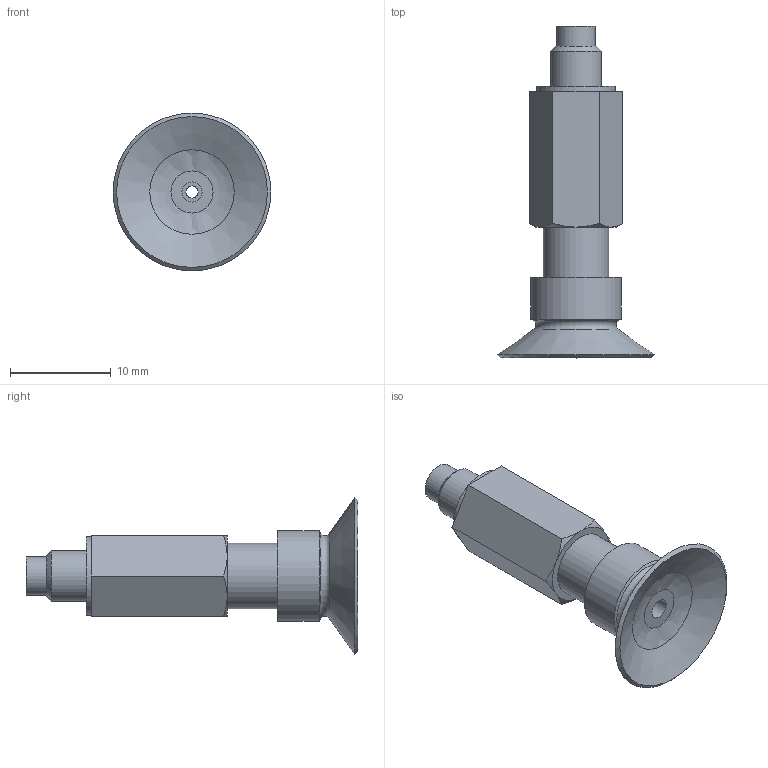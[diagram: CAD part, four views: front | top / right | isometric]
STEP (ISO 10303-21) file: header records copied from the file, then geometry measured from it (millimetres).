
FILE_DESCRIPTION(('STEP AP203'),'1');
FILE_NAME('.stp','2025-04-07T04:44:06',(' '),(' '),'Spatial InterOp 3D',' ',' ');
FILE_SCHEMA(('CONFIG_CONTROL_DESIGN'));
Length unit declared in the file: millimetre
Products named in the file (4): BPSS-L5-BPFG-15A-※; PSS-7-L5-M; PSS-7-L5-F; BPFG-15A-※
Assembly tree (3 placements, depth 2):
  BPSS-L5-BPFG-15A-※
    PSS-7-L5-M
    PSS-7-L5-F
    BPFG-15A-※
Bounding box: 15.7 x 33 x 15.7 mm (x, y, z)
Volume: 1386.6 mm3; surface area: 2085 mm2
Topology: 3 solids, 3 shells, 55 faces, 103 edges, 64 vertices
Faces by surface type: plane 22, cylinder 15, cone 11, torus 6, bspline 1
Full cylindrical faces by diameter (mm): 1.2 x1, 2 x1, 2.4 x2, 3.4 x1, 3.8 x1, 4 x2, 5 x1, 6 x2, 6.5 x2, 7.8 x1, 9 x1
Entity records: 1437 total; most frequent: CARTESIAN_POINT 242, DIRECTION 224, ORIENTED_EDGE 144, AXIS2_PLACEMENT_3D 106, EDGE_LOOP 98, FACE_OUTER_BOUND 77, EDGE_CURVE 72, VERTEX_POINT 60
